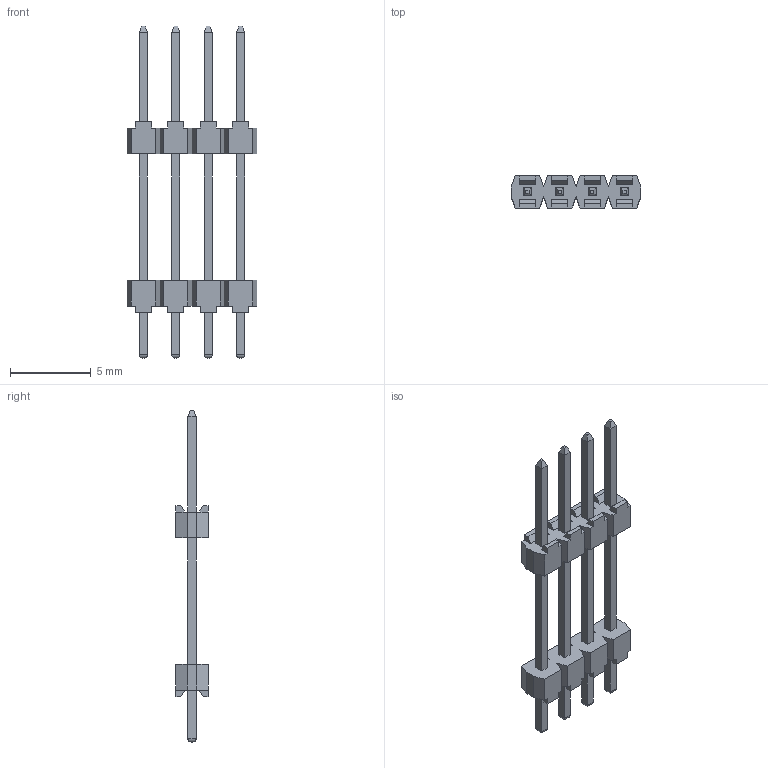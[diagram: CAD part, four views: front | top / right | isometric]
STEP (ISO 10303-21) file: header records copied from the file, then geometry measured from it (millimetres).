
FILE_DESCRIPTION(/* description */ (''),/* implementation_level */ '2;1');
FILE_NAME(/* name */ '951404-9062206-AR',/* time_stamp */ '2007-03-14T14:56:38+01:00',/* author */ (''),/* organization */ (''),/* preprocessor_version */ 'ST-DEVELOPER v9',/* originating_system */ 'UGS - NX 4.0',/* authorisation */ '');
FILE_SCHEMA (('AUTOMOTIVE_DESIGN { 1 0 10303 214 1 1 1 1 }'));
Length unit declared in the file: millimetre
Products named in the file (1): 951404-9062206-AR
Bounding box: 8 x 2 x 20.5 mm (x, y, z)
Volume: 66.5 mm3; surface area: 288.1 mm2
Topology: 1 solids, 1 shells, 208 faces, 556 edges, 360 vertices
Faces by surface type: plane 192, cylinder 16
Entity records: 6356 total; most frequent: CARTESIAN_POINT 1125, ORIENTED_EDGE 1112, DIRECTION 990, EDGE_CURVE 556, LINE 540, VECTOR 540, VERTEX_POINT 360, AXIS2_PLACEMENT_3D 225
